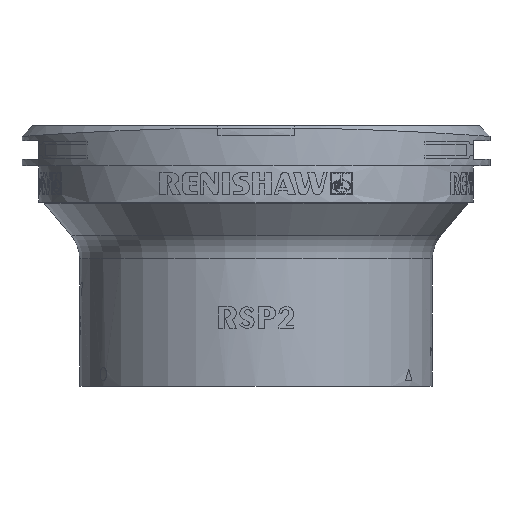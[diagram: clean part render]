
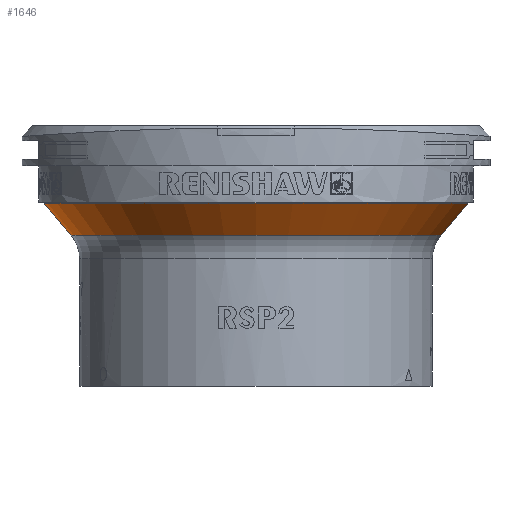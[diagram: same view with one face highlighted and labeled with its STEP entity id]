
A CAD part, front view. The second image highlights one B-rep face of the part: STEP entity #1646.
In plain terms, the highlighted conical face has half-angle 40 degrees and reference radius 24.35 mm.
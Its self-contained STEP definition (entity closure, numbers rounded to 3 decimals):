
#961=CONICAL_SURFACE('',#4752,24.35,40.);
#989=FACE_BOUND('',#1871,.T.);
#990=FACE_BOUND('',#1872,.T.);
#1646=ADVANCED_FACE('',(#989,#990),#961,.T.);
#1871=EDGE_LOOP('',(#2267));
#1872=EDGE_LOOP('',(#2268));
#2267=ORIENTED_EDGE('',*,*,#4105,.T.);
#2268=ORIENTED_EDGE('',*,*,#4106,.F.);
#3462=VERTEX_POINT('',#6070);
#3463=VERTEX_POINT('',#6073);
#4105=EDGE_CURVE('',#3462,#3462,#4646,.T.);
#4106=EDGE_CURVE('',#3463,#3463,#4647,.T.);
#4646=CIRCLE('',#4749,25.52);
#4647=CIRCLE('',#4751,29.25);
#4749=AXIS2_PLACEMENT_3D('',#6069,#4981,#4982);
#4751=AXIS2_PLACEMENT_3D('',#6072,#4985,#4986);
#4752=AXIS2_PLACEMENT_3D('',#6074,#4987,#4988);
#4981=DIRECTION('',(0.,0.,1.));
#4982=DIRECTION('',(1.,0.,0.));
#4985=DIRECTION('',(0.,0.,1.));
#4986=DIRECTION('',(0.,-1.,0.));
#4987=DIRECTION('',(0.,0.,1.));
#4988=DIRECTION('',(0.,-1.,0.));
#6069=CARTESIAN_POINT('',(0.,0.,-15.998));
#6070=CARTESIAN_POINT('',(25.52,0.,-15.998));
#6072=CARTESIAN_POINT('',(0.,0.,-11.552));
#6073=CARTESIAN_POINT('',(0.,-29.25,-11.552));
#6074=CARTESIAN_POINT('',(0.,0.,-17.392));
